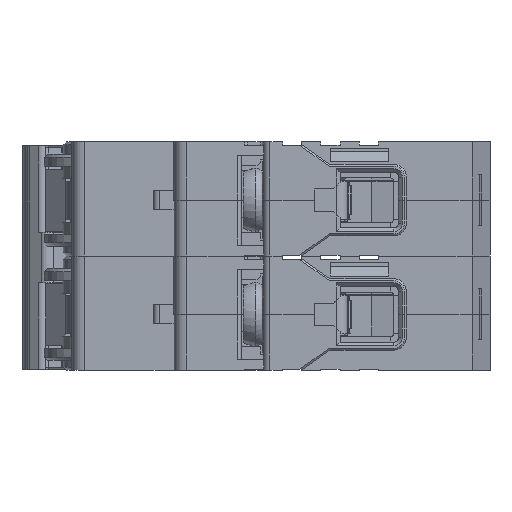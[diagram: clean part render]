
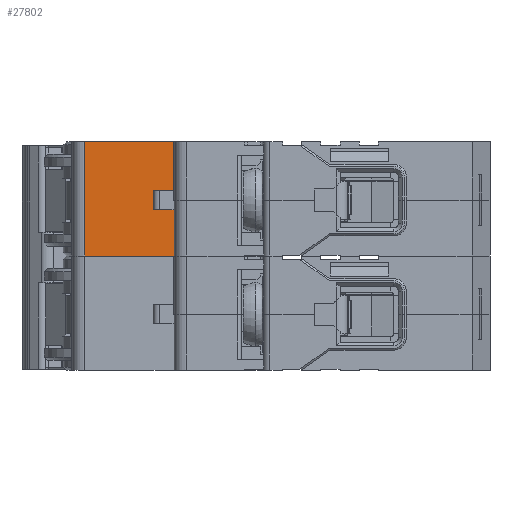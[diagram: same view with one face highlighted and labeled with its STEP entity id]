
A CAD part, left-side view. The second image highlights one B-rep face of the part: STEP entity #27802.
In plain terms, the highlighted planar face has unit normal (-1, 0, 0).
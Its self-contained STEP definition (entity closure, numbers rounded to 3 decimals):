
#501 = VECTOR ( 'NONE', #46755, 1000. ) ;
#607 = PLANE ( 'NONE',  #14948 ) ;
#990 = CARTESIAN_POINT ( 'NONE',  ( -18.5, 5., 103.394 ) ) ;
#1203 = EDGE_LOOP ( 'NONE', ( #6390, #19351, #40699, #25792, #50477, #2900, #48481, #10911 ) ) ;
#1675 = DIRECTION ( 'NONE',  ( 0., 0., 1. ) ) ;
#2538 = VECTOR ( 'NONE', #19477, 1000. ) ;
#2900 = ORIENTED_EDGE ( 'NONE', *, *, #25374, .T. ) ;
#3573 = VECTOR ( 'NONE', #30818, 1000. ) ;
#5172 = EDGE_CURVE ( 'NONE', #26847, #7361, #50018, .T. ) ;
#5237 = LINE ( 'NONE', #48653, #20281 ) ;
#6008 = LINE ( 'NONE', #39844, #15348 ) ;
#6390 = ORIENTED_EDGE ( 'NONE', *, *, #23893, .F. ) ;
#7361 = VERTEX_POINT ( 'NONE', #33032 ) ;
#8418 = DIRECTION ( 'NONE',  ( 0., 0., -1. ) ) ;
#10131 = VERTEX_POINT ( 'NONE', #38152 ) ;
#10911 = ORIENTED_EDGE ( 'NONE', *, *, #22187, .F. ) ;
#12516 = CARTESIAN_POINT ( 'NONE',  ( -18.5, 5., -8.75 ) ) ;
#12547 = EDGE_CURVE ( 'NONE', #16007, #57518, #5237, .T. ) ;
#12623 = EDGE_CURVE ( 'NONE', #26847, #32895, #6008, .T. ) ;
#13545 = CARTESIAN_POINT ( 'NONE',  ( -18.5, -10.9, 1.5 ) ) ;
#14591 = DIRECTION ( 'NONE',  ( -1., 0., 0. ) ) ;
#14884 = CARTESIAN_POINT ( 'NONE',  ( -18.5, 0., 9.15 ) ) ;
#14948 = AXIS2_PLACEMENT_3D ( 'NONE', #990, #14591, #49662 ) ;
#15348 = VECTOR ( 'NONE', #44271, 1000. ) ;
#16007 = VERTEX_POINT ( 'NONE', #13545 ) ;
#16359 = DIRECTION ( 'NONE',  ( 0., 1., 0. ) ) ;
#18565 = FACE_OUTER_BOUND ( 'NONE', #1203, .T. ) ;
#19351 = ORIENTED_EDGE ( 'NONE', *, *, #40577, .T. ) ;
#19477 = DIRECTION ( 'NONE',  ( 0., 0., -1. ) ) ;
#20281 = VECTOR ( 'NONE', #16359, 1000. ) ;
#22187 = EDGE_CURVE ( 'NONE', #53429, #16007, #31134, .T. ) ;
#23893 = EDGE_CURVE ( 'NONE', #42265, #53429, #32628, .T. ) ;
#23928 = CARTESIAN_POINT ( 'NONE',  ( -18.5, -10.9, 10.004 ) ) ;
#24380 = VECTOR ( 'NONE', #8418, 1000. ) ;
#25059 = LINE ( 'NONE', #12516, #3573 ) ;
#25101 = CARTESIAN_POINT ( 'NONE',  ( -18.5, 3., 9.15 ) ) ;
#25374 = EDGE_CURVE ( 'NONE', #32895, #57518, #45898, .T. ) ;
#25792 = ORIENTED_EDGE ( 'NONE', *, *, #5172, .F. ) ;
#26002 = CARTESIAN_POINT ( 'NONE',  ( -18.5, -10.9, 9.15 ) ) ;
#26847 = VERTEX_POINT ( 'NONE', #46594 ) ;
#27802 = ADVANCED_FACE ( 'NONE', ( #18565 ), #607, .T. ) ;
#30818 = DIRECTION ( 'NONE',  ( 0., 1., 0. ) ) ;
#31134 = LINE ( 'NONE', #23928, #2538 ) ;
#32628 = LINE ( 'NONE', #14884, #501 ) ;
#32895 = VERTEX_POINT ( 'NONE', #36703 ) ;
#33032 = CARTESIAN_POINT ( 'NONE',  ( -18.5, -11., -8.75 ) ) ;
#35719 = CARTESIAN_POINT ( 'NONE',  ( -18.5, -11., 103.394 ) ) ;
#36703 = CARTESIAN_POINT ( 'NONE',  ( -18.5, -7.7, -1.5 ) ) ;
#37802 = DIRECTION ( 'NONE',  ( 0., 0., -1. ) ) ;
#38152 = CARTESIAN_POINT ( 'NONE',  ( -18.5, 3., -8.75 ) ) ;
#38583 = CARTESIAN_POINT ( 'NONE',  ( -18.5, -7.7, 1.5 ) ) ;
#39763 = VECTOR ( 'NONE', #37802, 1000. ) ;
#39844 = CARTESIAN_POINT ( 'NONE',  ( -18.5, -11., -1.5 ) ) ;
#40577 = EDGE_CURVE ( 'NONE', #42265, #10131, #43341, .T. ) ;
#40699 = ORIENTED_EDGE ( 'NONE', *, *, #52901, .F. ) ;
#42265 = VERTEX_POINT ( 'NONE', #25101 ) ;
#42322 = VECTOR ( 'NONE', #1675, 1000. ) ;
#42793 = CARTESIAN_POINT ( 'NONE',  ( -18.5, 3., 103.394 ) ) ;
#43341 = LINE ( 'NONE', #42793, #39763 ) ;
#44271 = DIRECTION ( 'NONE',  ( 0., 1., 0. ) ) ;
#45898 = LINE ( 'NONE', #55869, #42322 ) ;
#46594 = CARTESIAN_POINT ( 'NONE',  ( -18.5, -11., -1.5 ) ) ;
#46755 = DIRECTION ( 'NONE',  ( 0., -1., 0. ) ) ;
#48481 = ORIENTED_EDGE ( 'NONE', *, *, #12547, .F. ) ;
#48653 = CARTESIAN_POINT ( 'NONE',  ( -18.5, -11., 1.5 ) ) ;
#49662 = DIRECTION ( 'NONE',  ( 0., 0., 1. ) ) ;
#50018 = LINE ( 'NONE', #35719, #24380 ) ;
#50477 = ORIENTED_EDGE ( 'NONE', *, *, #12623, .T. ) ;
#52901 = EDGE_CURVE ( 'NONE', #7361, #10131, #25059, .T. ) ;
#53429 = VERTEX_POINT ( 'NONE', #26002 ) ;
#55869 = CARTESIAN_POINT ( 'NONE',  ( -18.5, -7.7, -1.5 ) ) ;
#57518 = VERTEX_POINT ( 'NONE', #38583 ) ;
